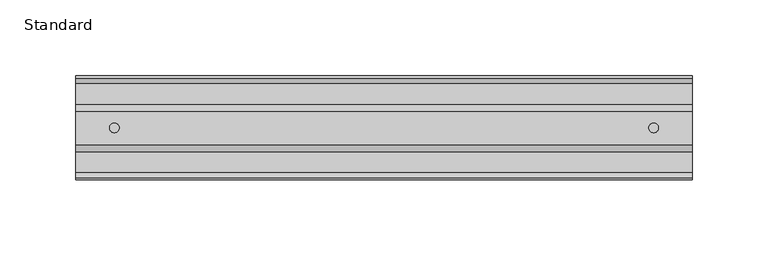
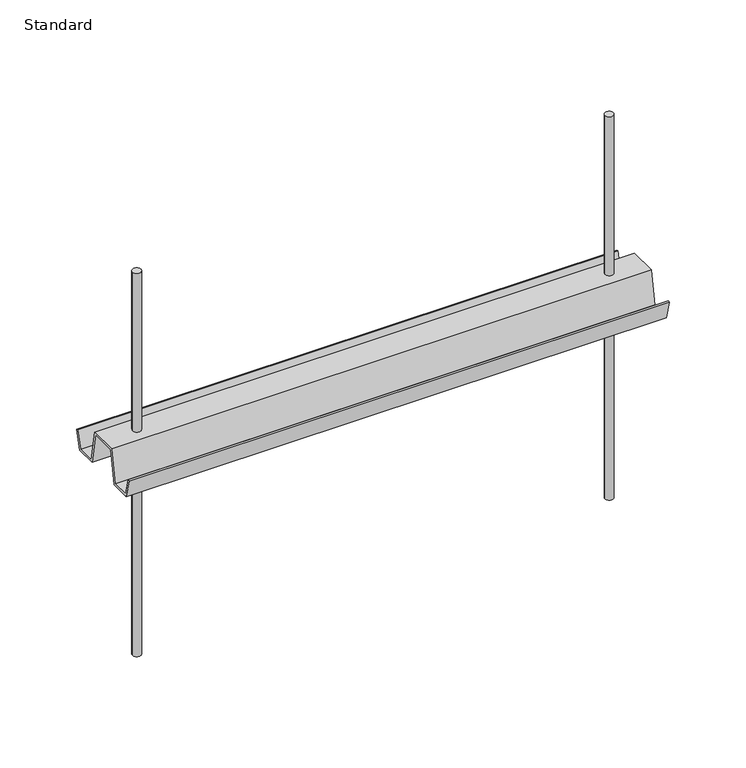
"""IFC4 building model written with IfcOpenShell, lengths in millimetres: electric appliance geometry, Bracket-I-Cablofil-FAS_Profile-Trapeeze : Standard."""

from ifc_helpers import new_model, si_unit, point, frame, frame_2d, origin, place, context, project, spatial, polyline, circle_curve, trimmed, segment, composite_curve, outline, extrude, source, transform, mapped, element, save


def standard_d35a98ab(model_context):
    return source(origin(), model_context, "Body", "SweptSolid", [
        extrude(outline(composite_curve([segment(trimmed(circle_curve(frame_2d((177.8, 0.0)), 3.175), [point((174.625, 0.0))], [point((180.975, 0.0))], False, "CARTESIAN"), True, "CONTINUOUS"), segment(trimmed(circle_curve(frame_2d((177.8, 0.0)), 3.175), [point((180.975, 0.0))], [point((174.625, 0.0))], False, "CARTESIAN"), True, "CONTINUOUS")], self_intersect=False)), frame((0.0, 0.0, -152.4), z_axis=(0.0, 0.0, 1.0), x_axis=(1.0, 0.0, 0.0)), (0.0, 0.0, 1.0), 304.8),
        extrude(outline(composite_curve([segment(trimmed(circle_curve(frame_2d((-177.8, 0.0)), 3.175), [point((-180.975, 0.0))], [point((-174.625, 0.0))], False, "CARTESIAN"), True, "CONTINUOUS"), segment(trimmed(circle_curve(frame_2d((-177.8, 0.0)), 3.175), [point((-174.625, 0.0))], [point((-180.975, 0.0))], False, "CARTESIAN"), True, "CONTINUOUS")], self_intersect=False)), frame((0.0, 0.0, -152.4), z_axis=(0.0, 0.0, 1.0), x_axis=(1.0, 0.0, 0.0)), (0.0, 0.0, 1.0), 304.8),
        extrude(outline(polyline([(-34.29, 14.5117714), (-32.8411113, 14.9), (-29.2505921, 1.5), (-15.75, 1.5), (-11.0, 26.289), (11.0, 26.289), (15.6505921, 1.5), (29.2505921, 1.5), (32.8411113, 14.9), (34.29, 14.5117714), (30.4015826, 0.0), (14.4106248, 0.0), (9.7600327, 24.8), (-9.7600327, 24.8), (-14.5100327, 0.0), (-30.4015826, 0.0), (-34.29, 14.5117714)])), frame((-203.2, 0.0, 0.0), z_axis=(1.0, 0.0, 0.0), x_axis=(0.0, 1.0, 0.0)), (0.0, 0.0, 1.0), 406.4),
    ])


if __name__ == "__main__":
    model = new_model("IFC4")
    model_context = context("Model", 3, world=origin())
    ifc_project = project(units=[si_unit("LENGTHUNIT", "METRE", prefix="MILLI")], contexts=[model_context])
    site = spatial("IfcSite", under=ifc_project)
    building = spatial("IfcBuilding", under=site)
    placement = place(None, origin())
    standard_shape = standard_d35a98ab(model_context)
    element("IfcElectricAppliance", 1, ObjectType="Bracket-I-Cablofil-FAS_Profile-Trapeeze : Standard", at=placement, inside=building, context=model_context, shape_type="MappedRepresentation", body=[
        mapped(standard_shape, transform((0.0, 0.0, 0.0), x_axis=(1.0, 0.0, 0.0), y_axis=(0.0, 1.0, 0.0), z_axis=(0.0, 0.0, 1.0))),
    ])
    save(model, "model.ifc")
